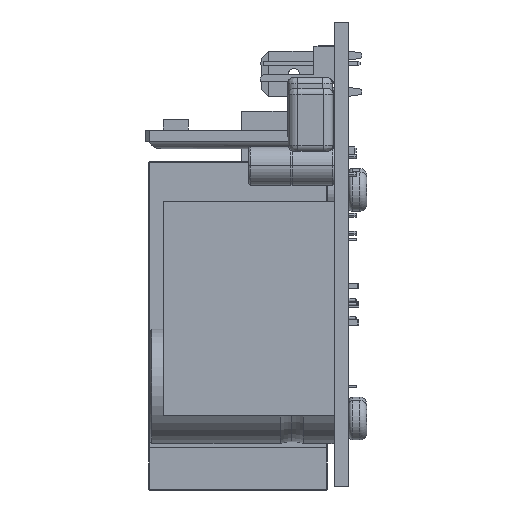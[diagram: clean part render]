
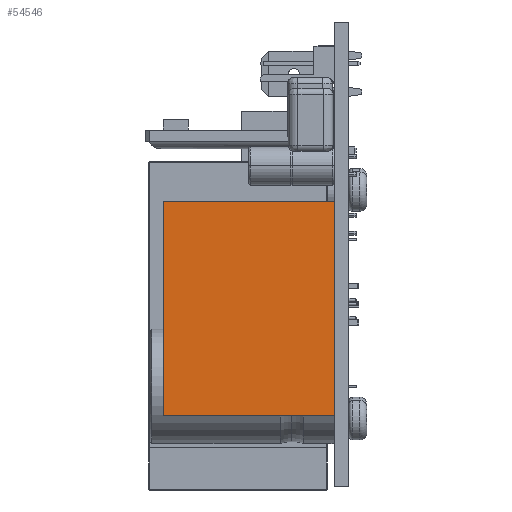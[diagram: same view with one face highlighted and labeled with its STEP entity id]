
A CAD part, left-side view. The second image highlights one B-rep face of the part: STEP entity #54546.
In plain terms, the highlighted planar face has unit normal (-1, 0, 0).
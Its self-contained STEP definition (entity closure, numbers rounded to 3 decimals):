
#1661 = FACE_OUTER_BOUND ( 'NONE', #54513, .T. ) ;
#4655 = CARTESIAN_POINT ( 'NONE',  ( 0., 22.645, 51.804 ) ) ;
#7967 = CARTESIAN_POINT ( 'NONE',  ( 0., -1.355, 51.804 ) ) ;
#9741 = EDGE_CURVE ( 'NONE', #64909, #64928, #17769, .T. ) ;
#10377 = ORIENTED_EDGE ( 'NONE', *, *, #58347, .F. ) ;
#12027 = DIRECTION ( 'NONE',  ( 1., 0., 0. ) ) ;
#17769 = LINE ( 'NONE', #4655, #18548 ) ;
#18548 = VECTOR ( 'NONE', #43162, 1000. ) ;
#19260 = DIRECTION ( 'NONE',  ( 0., -1., 0. ) ) ;
#19487 = CARTESIAN_POINT ( 'NONE',  ( 0., 22.645, 51.804 ) ) ;
#21757 = ORIENTED_EDGE ( 'NONE', *, *, #62514, .F. ) ;
#23788 = LINE ( 'NONE', #67371, #60485 ) ;
#26634 = LINE ( 'NONE', #19487, #47055 ) ;
#26930 = PLANE ( 'NONE',  #64953 ) ;
#36601 = DIRECTION ( 'NONE',  ( 0., 1., 0. ) ) ;
#43162 = DIRECTION ( 'NONE',  ( 0., 0., 1. ) ) ;
#44109 = DIRECTION ( 'NONE',  ( 0., 0., -1. ) ) ;
#47055 = VECTOR ( 'NONE', #19260, 1000. ) ;
#47779 = VERTEX_POINT ( 'NONE', #51936 ) ;
#47877 = EDGE_CURVE ( 'NONE', #67307, #64909, #23788, .T. ) ;
#51936 = CARTESIAN_POINT ( 'NONE',  ( 0., -1.355, 51.804 ) ) ;
#52735 = LINE ( 'NONE', #7967, #64096 ) ;
#54513 = EDGE_LOOP ( 'NONE', ( #10377, #59247, #58855, #21757 ) ) ;
#54546 = ADVANCED_FACE ( 'NONE', ( #1661 ), #26930, .F. ) ;
#54702 = CARTESIAN_POINT ( 'NONE',  ( 0., 22.645, 21.804 ) ) ;
#55577 = CARTESIAN_POINT ( 'NONE',  ( 0., 22.645, 51.804 ) ) ;
#56503 = CARTESIAN_POINT ( 'NONE',  ( 0., -1.355, 21.804 ) ) ;
#58347 = EDGE_CURVE ( 'NONE', #64928, #47779, #26634, .T. ) ;
#58855 = ORIENTED_EDGE ( 'NONE', *, *, #47877, .F. ) ;
#59247 = ORIENTED_EDGE ( 'NONE', *, *, #9741, .F. ) ;
#60485 = VECTOR ( 'NONE', #36601, 1000. ) ;
#62514 = EDGE_CURVE ( 'NONE', #47779, #67307, #52735, .T. ) ;
#63442 = DIRECTION ( 'NONE',  ( 0., 0., -1. ) ) ;
#64096 = VECTOR ( 'NONE', #44109, 1000. ) ;
#64109 = CARTESIAN_POINT ( 'NONE',  ( 0., -1.355, 51.804 ) ) ;
#64909 = VERTEX_POINT ( 'NONE', #54702 ) ;
#64928 = VERTEX_POINT ( 'NONE', #55577 ) ;
#64953 = AXIS2_PLACEMENT_3D ( 'NONE', #64109, #12027, #63442 ) ;
#67307 = VERTEX_POINT ( 'NONE', #56503 ) ;
#67371 = CARTESIAN_POINT ( 'NONE',  ( 0., 22.645, 21.804 ) ) ;
